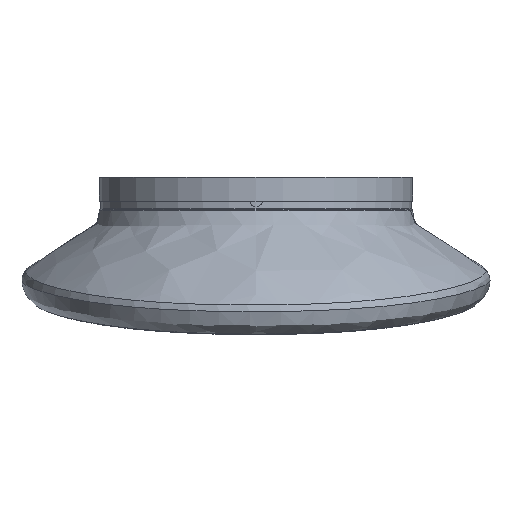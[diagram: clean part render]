
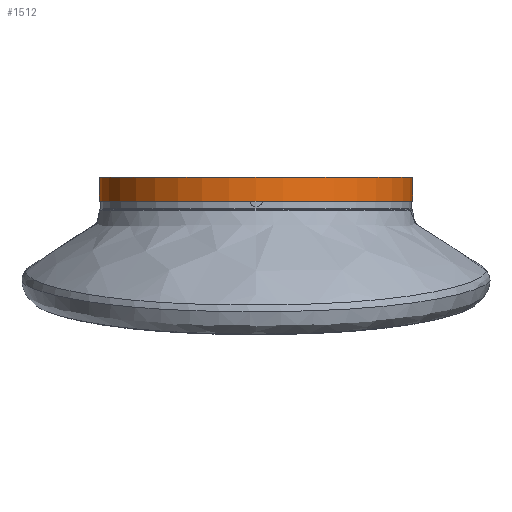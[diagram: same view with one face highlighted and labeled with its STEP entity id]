
A CAD part, left-side view. The second image highlights one B-rep face of the part: STEP entity #1512.
In plain terms, the highlighted cylindrical face has radius 145 mm (diameter 290 mm), a full revolution.
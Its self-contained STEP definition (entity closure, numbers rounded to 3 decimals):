
#1512 = ADVANCED_FACE( '', ( #3377, #3378 ), #3379, .T. );
#3377 = FACE_OUTER_BOUND( '', #25493, .T. );
#3378 = FACE_OUTER_BOUND( '', #25494, .T. );
#3379 = CYLINDRICAL_SURFACE( '', #25495, 145. );
#25493 = EDGE_LOOP( '', ( #45961 ) );
#25494 = EDGE_LOOP( '', ( #45962 ) );
#25495 = AXIS2_PLACEMENT_3D( '', #45963, #45964, #45965 );
#45961 = ORIENTED_EDGE( '', *, *, #54398, .T. );
#45962 = ORIENTED_EDGE( '', *, *, #55551, .T. );
#45963 = CARTESIAN_POINT( '', ( 0., 0., 15. ) );
#45964 = DIRECTION( '', ( 0., 0., 1. ) );
#45965 = DIRECTION( '', ( -1., 0., 0. ) );
#54398 = EDGE_CURVE( '', #56807, #56807, #56808, .T. );
#55551 = EDGE_CURVE( '', #58508, #58508, #58509, .F. );
#56807 = VERTEX_POINT( '', #61887 );
#56808 = CIRCLE( '', #61888, 145. );
#58508 = VERTEX_POINT( '', #75084 );
#58509 = CIRCLE( '', #75085, 145. );
#61887 = CARTESIAN_POINT( '', ( 145., 0., 15. ) );
#61888 = AXIS2_PLACEMENT_3D( '', #79638, #79639, #79640 );
#75084 = CARTESIAN_POINT( '', ( -145., 0., -7. ) );
#75085 = AXIS2_PLACEMENT_3D( '', #81018, #81019, #81020 );
#79638 = CARTESIAN_POINT( '', ( 0., 0., 15. ) );
#79639 = DIRECTION( '', ( 0., 0., -1. ) );
#79640 = DIRECTION( '', ( 1., 0., 0. ) );
#81018 = CARTESIAN_POINT( '', ( 0., 0., -7. ) );
#81019 = DIRECTION( '', ( 0., 0., -1. ) );
#81020 = DIRECTION( '', ( -1., 0., 0. ) );
